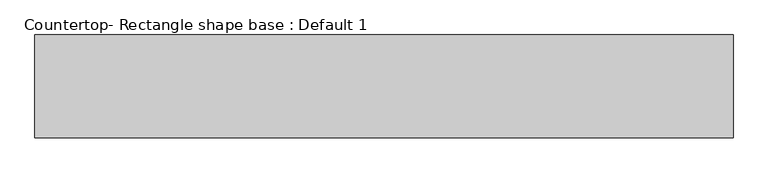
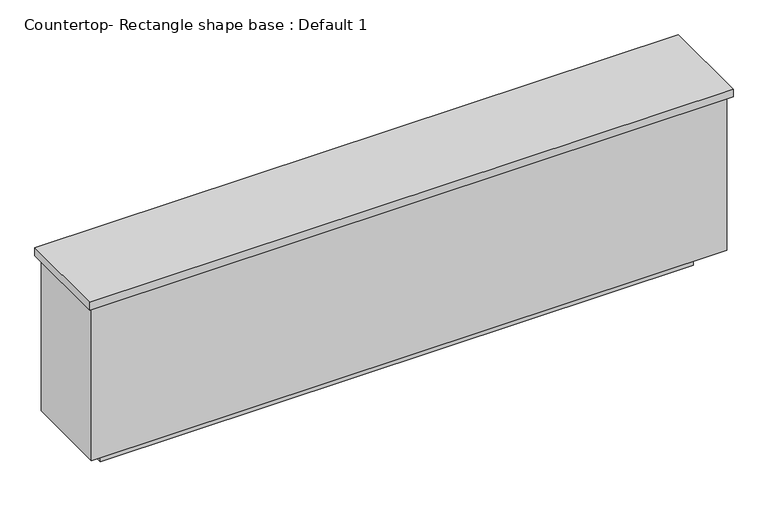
"""IFC4 building model written with IfcOpenShell, lengths in millimetres: proxy geometry, Countertop- Rectangle shape base : Default 1."""

from ifc_helpers import new_model, si_unit, frame, origin, origin_with_axes, place, context, project, spatial, polyline, outline, extrude, source, transform, mapped, element, save


def countertop_rectangle_shape_base_default_1_a7bd4f21(model_context):
    return source(origin(), model_context, "Body", "SweptSolid", [
        extrude(outline(polyline([(-765.175, 155.575), (-765.175, 606.425), (2289.175, 606.425), (2289.175, 155.575), (-765.175, 155.575)])), frame((0.0, 0.0, 876.3), z_axis=(0.0, 0.0, 1.0), x_axis=(1.0, 0.0, 0.0)), (0.0, 0.0, 1.0), 38.1),
        extrude(outline(polyline([(2270.125, 587.375), (2270.125, 174.625), (-746.125, 174.625), (-746.125, 587.375), (2270.125, 587.375)])), frame((0.0, 0.0, 101.6), z_axis=(0.0, 0.0, 1.0), x_axis=(1.0, 0.0, 0.0)), (0.0, 0.0, 1.0), 774.7),
        extrude(outline(polyline([(2168.525, 485.775), (2168.525, 276.225), (-644.525, 276.225), (-644.525, 485.775), (2168.525, 485.775)])), origin_with_axes(), (0.0, 0.0, 1.0), 101.6),
    ])


if __name__ == "__main__":
    model = new_model("IFC4")
    model_context = context("Model", 3, world=origin())
    ifc_project = project(units=[si_unit("LENGTHUNIT", "METRE", prefix="MILLI")], contexts=[model_context])
    site = spatial("IfcSite", under=ifc_project)
    building = spatial("IfcBuilding", under=site)
    placement = place(None, origin())
    countertop_rectangle_shape_base_default_1_shape = countertop_rectangle_shape_base_default_1_a7bd4f21(model_context)
    element("IfcBuildingElementProxy", 1, Name="Countertop- Rectangle shape base : Default 1", ObjectType="Countertop- Rectangle shape base : Default 1", at=placement, inside=building, context=model_context, shape_type="MappedRepresentation", body=[
        mapped(countertop_rectangle_shape_base_default_1_shape, transform((0.0, 0.0, 0.0), x_axis=(1.0, 0.0, 0.0), y_axis=(0.0, 1.0, 0.0), z_axis=(0.0, 0.0, 1.0))),
    ])
    save(model, "model.ifc")
